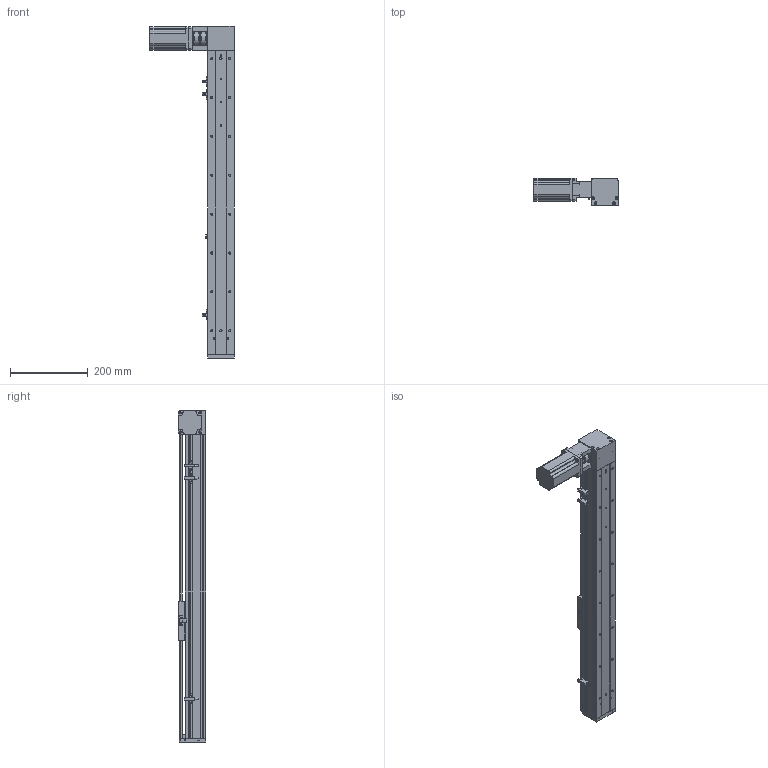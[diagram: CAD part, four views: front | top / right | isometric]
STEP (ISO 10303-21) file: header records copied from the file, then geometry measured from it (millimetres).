
FILE_DESCRIPTION (( 'STEP AP203' ), '1' );
FILE_NAME ('ML68-S600-BL.STEP', '2016-06-01T03:10:10', ( '微软用户' ), ( '微软中国' ), 'SwSTEP 2.0', 'SolidWorks 2014', '' );
FILE_SCHEMA (( 'CONFIG_CONTROL_DESIGN' ));
Length unit declared in the file: millimetre
Products named in the file (12): 联轴器（CS34X32-8X14）_預設; MS68-TS0204鎮湛嘐隅釱_蕼偞; ML68-奻裔^ML68-S600-BL; ML68雄赽釱; ML68-BL傷啣; ML68滅鳥啣盓傅輸; 60換覜結え; ML68-S600-BL; ML68-菁釱^ML68-S600-BL; ML68傷啣; 換覜ん; 三协电机MH201N2_預設
Assembly tree (13 placements, depth 2):
  ML68-S600-BL
    ML68-BL傷啣
    60換覜結え
    ML68-菁釱^ML68-S600-BL
    ML68傷啣
    換覜ん  x3
    三协电机MH201N2_預設
    联轴器（CS34X32-8X14）_預設
    MS68-TS0204鎮湛嘐隅釱_蕼偞
    ML68-奻裔^ML68-S600-BL
    ML68雄赽釱
    ML68滅鳥啣盓傅輸
Bounding box: 216.5 x 70.5 x 854 mm (x, y, z)
Volume: 1651587.3 mm3; surface area: 583504.3 mm2
Topology: 14 solids, 14 shells, 915 faces, 2481 edges, 1571 vertices
Faces by surface type: cylinder 427, plane 372, cone 100, bspline 16
Entity records: 29377 total; most frequent: CARTESIAN_POINT 6099, DIRECTION 4723, ORIENTED_EDGE 4478, EDGE_CURVE 2239, AXIS2_PLACEMENT_3D 1733, VERTEX_POINT 1459, VECTOR 1257, LINE 1257
